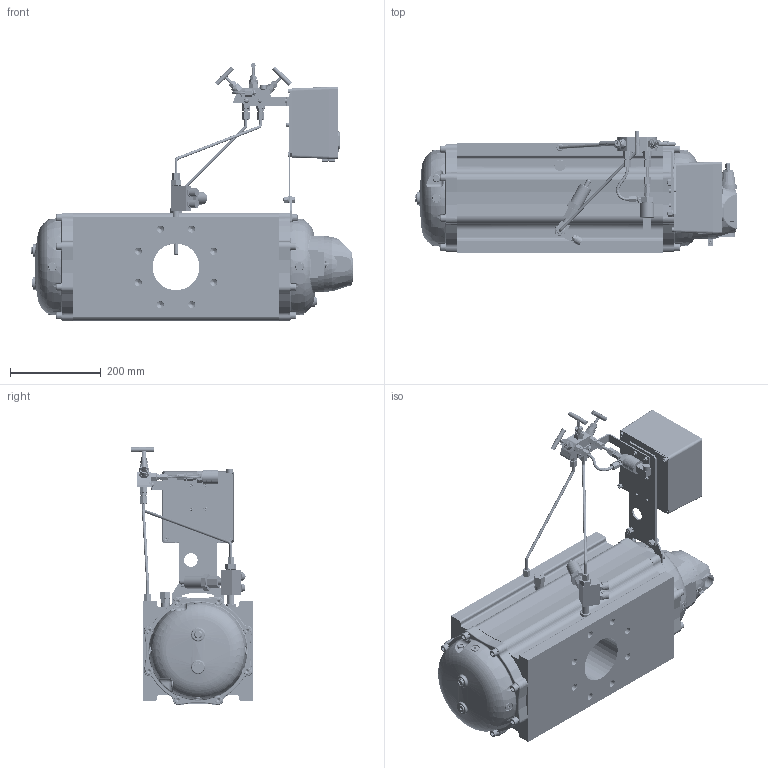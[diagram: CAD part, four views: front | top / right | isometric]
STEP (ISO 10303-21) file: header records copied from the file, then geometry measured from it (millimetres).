
FILE_DESCRIPTION(('STEP AP203'), '1');
FILE_NAME('楥-2230-G400-100', '', ('UNSPECIFIED'), ('UNSPECIFIED'), 'C3D Converter', 'C3D Toolkit', '');
FILE_SCHEMA(('CONFIG_CONTROL_DESIGN'));
Length unit declared in the file: millimetre
Bounding box: 709.7 x 267.75 x 568.35 mm (x, y, z)
Volume: 29014308.3 mm3; surface area: 1232271.9 mm2
Topology: 5 solids, 8 shells, 10459 faces, 29178 edges, 19514 vertices
Faces by surface type: plane 5241, extrusion 2990, cylinder 1581, cone 268, torus 221, bspline 143, sphere 15
Full cylindrical faces by diameter (mm): 1 x23, 1.5 x1, 2 x11, 2.2 x1, 2.5 x4, 3 x17, 3.5 x4, 4 x29, 4.4 x1, 5 x5, 5.4 x1, 5.5 x5, 6 x13, 6.381 x1, 6.5 x9, 7 x16, 7.4 x4, 7.5 x7, 8 x5, 8.466 x1, 8.5 x5, 9.4 x9, 9.526 x2, 9.65 x1, 10 x21, 11 x7, 11.002 x1, 12 x17, 13.134 x3, 13.835 x16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
Entity records: 492542 total; most frequent: CARTESIAN_POINT 156655, ORIENTED_EDGE 55720, DIRECTION 41765, EDGE_CURVE 28460, VERTEX_POINT 19432, VECTOR 19149, LINE 16159, EDGE_LOOP 12045
